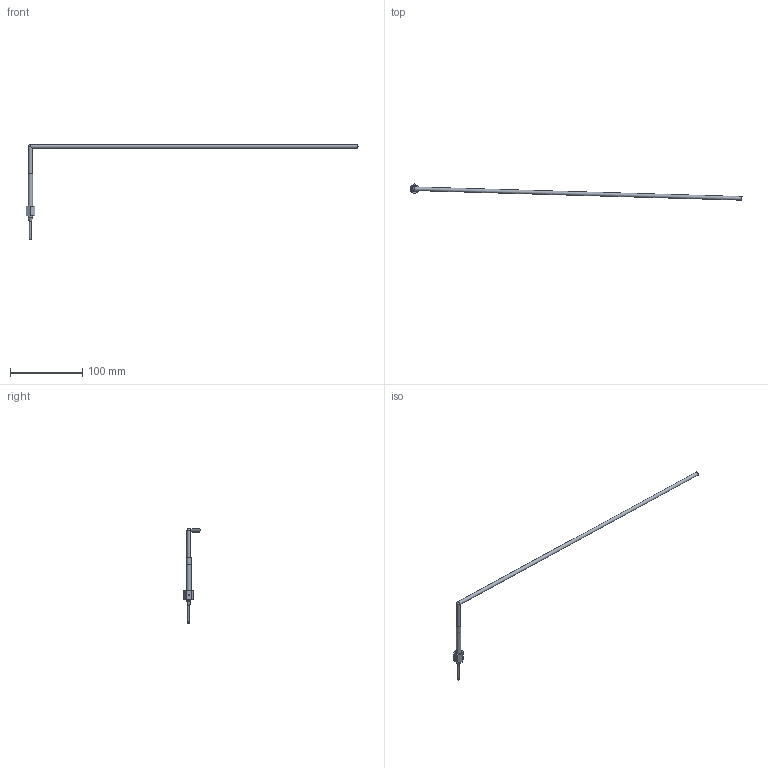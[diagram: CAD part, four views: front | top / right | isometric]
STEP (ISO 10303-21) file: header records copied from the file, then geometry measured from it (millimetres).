
FILE_DESCRIPTION( ( 'Unknown' ), '1' );
FILE_NAME( 'Z:/U_Proces/dokumentation new/Mechanical parts/7000 3D Step filer/7000-/7000303/8155-34.0500.stp', 'Unknown', ( 'Unknown' ), ( 'Unknown' ), 'PSStep 15.0.49', 'Unknown', ' ' );
FILE_SCHEMA( ( 'AUTOMOTIVE_DESIGN { 1 0 10303 214 1 1 1 1 }' ) );
Length unit declared in the file: millimetre
Products named in the file (1): 3219179
Bounding box: 458.38 x 22.7 x 131 mm (x, y, z)
Volume: 11983.1 mm3; surface area: 11218.5 mm2
Topology: 1 solids, 2 shells, 37 faces, 76 edges, 49 vertices
Faces by surface type: plane 17, cylinder 13, cone 5, torus 1, sphere 1
Full cylindrical faces by diameter (mm): 2.25 x1, 3.1 x1, 3.8 x1, 4 x1, 5 x2, 6 x1, 6.1 x1, 7 x1, 7.2 x1, 8 x1, 8.5 x1, 8.566 x1
Entity records: 1112 total; most frequent: DIRECTION 152, CARTESIAN_POINT 126, ORIENTED_EDGE 94, AXIS2_PLACEMENT_3D 67, EDGE_LOOP 63, FACE_OUTER_BOUND 51, EDGE_CURVE 47, VERTEX_POINT 41
